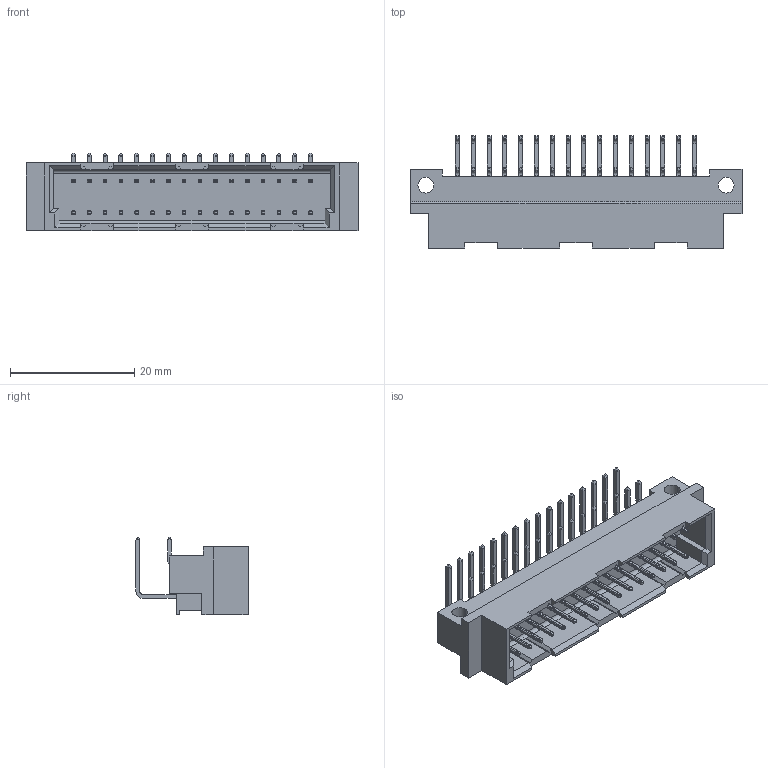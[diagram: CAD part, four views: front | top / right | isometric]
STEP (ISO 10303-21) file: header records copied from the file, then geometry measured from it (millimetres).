
FILE_DESCRIPTION (( 'STEP AP214' ), '1' );
FILE_NAME ('103-90014_C_3D.STEP', '2011-08-04T08:02:35', ( ' ' ), ( ' ' ), 'SwSTEP 2.0', 'SolidWorks 2010', '' );
FILE_SCHEMA (( 'AUTOMOTIVE_DESIGN' ));
Length unit declared in the file: millimetre
Products named in the file (1): 103-90014_C_3D
Bounding box: 53.36 x 18.03 x 12.43 mm (x, y, z)
Volume: 3357.9 mm3; surface area: 4589 mm2
Topology: 1 solids, 1 shells, 1497 faces, 4222 edges, 2810 vertices
Faces by surface type: plane 826, cylinder 583, bspline 88
Entity records: 70055 total; most frequent: CARTESIAN_POINT 17242, ORIENTED_EDGE 8444, DIRECTION 6400, EDGE_CURVE 4222, VERTEX_POINT 2810, LINE 2592, VECTOR 2592, AXIS2_PLACEMENT_3D 1904
